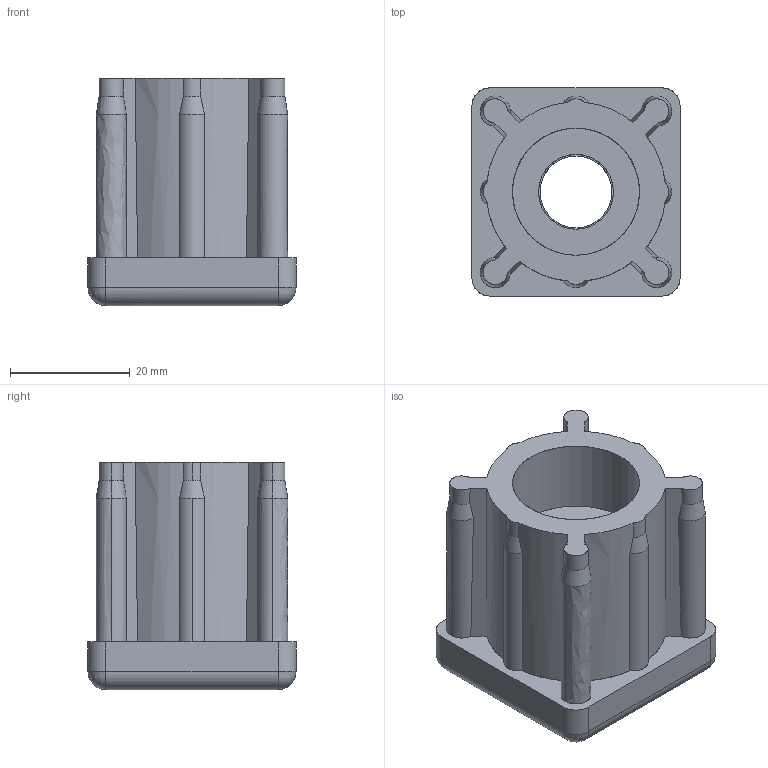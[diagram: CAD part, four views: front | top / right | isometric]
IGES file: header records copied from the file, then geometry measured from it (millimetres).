
Start section: SolidWorks IGES file using analytic representation for surfaces
Global section: file name: Y:\Tecnodin, S.L\PLAPP-Dirección - Documentos\General\Models CAD\Actiby\42006835212.IGS; native system: SolidWorks 2018; preprocessor: SolidWorks 2018; author: GerPro; date: 200225.184805; units: millimetre
Bounding box: 34.8 x 34.8 x 38 mm (x, y, z)
Surface area: 10467.6 mm2 (no closed solid volume)
Topology: 0 solids, 0 shells, 98 faces, 1090 edges, 1087 vertices
Faces by surface type: revolution 79, bspline 19
